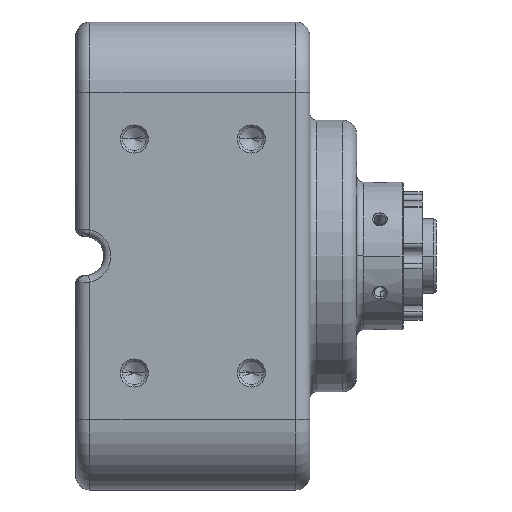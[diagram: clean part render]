
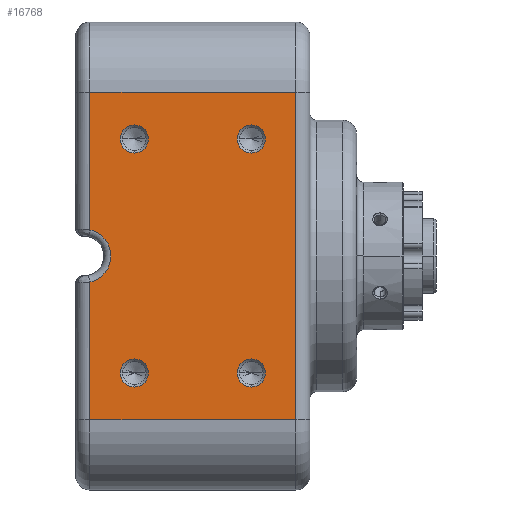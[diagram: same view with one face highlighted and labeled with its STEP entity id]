
A CAD part, front view. The second image highlights one B-rep face of the part: STEP entity #16768.
In plain terms, the highlighted planar face has unit normal (0, -1, 0).
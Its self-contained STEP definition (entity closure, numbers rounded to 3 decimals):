
#6643=CARTESIAN_POINT('',(37.5,-50.,-25.));
#6644=DIRECTION('',(0.,1.,0.));
#6645=DIRECTION('',(0.,0.,-1.));
#6646=AXIS2_PLACEMENT_3D('',#6643,#6644,#6645);
#6651=CARTESIAN_POINT('',(37.5,-50.,-25.));
#6652=DIRECTION('',(0.,1.,0.));
#6653=DIRECTION('',(0.,0.,1.));
#6654=AXIS2_PLACEMENT_3D('',#6651,#6652,#6653);
#6659=CARTESIAN_POINT('',(12.5,-50.,-25.));
#6660=DIRECTION('',(0.,1.,0.));
#6661=DIRECTION('',(0.,0.,-1.));
#6662=AXIS2_PLACEMENT_3D('',#6659,#6660,#6661);
#6667=CARTESIAN_POINT('',(12.5,-50.,-25.));
#6668=DIRECTION('',(0.,1.,0.));
#6669=DIRECTION('',(0.,0.,1.));
#6670=AXIS2_PLACEMENT_3D('',#6667,#6668,#6669);
#6675=CARTESIAN_POINT('',(37.5,-50.,25.));
#6676=DIRECTION('',(0.,1.,0.));
#6677=DIRECTION('',(0.,0.,-1.));
#6678=AXIS2_PLACEMENT_3D('',#6675,#6676,#6677);
#6683=CARTESIAN_POINT('',(37.5,-50.,25.));
#6684=DIRECTION('',(0.,1.,0.));
#6685=DIRECTION('',(0.,0.,1.));
#6686=AXIS2_PLACEMENT_3D('',#6683,#6684,#6685);
#6691=CARTESIAN_POINT('',(12.5,-50.,25.));
#6692=DIRECTION('',(0.,1.,0.));
#6693=DIRECTION('',(0.,0.,-1.));
#6694=AXIS2_PLACEMENT_3D('',#6691,#6692,#6693);
#6699=CARTESIAN_POINT('',(12.5,-50.,25.));
#6700=DIRECTION('',(0.,1.,0.));
#6701=DIRECTION('',(0.,0.,1.));
#6702=AXIS2_PLACEMENT_3D('',#6699,#6700,#6701);
#6707=CARTESIAN_POINT('',(1.75,-50.,0.));
#6708=DIRECTION('',(0.,1.,0.));
#6709=DIRECTION('',(0.217,0.,0.976));
#6710=AXIS2_PLACEMENT_3D('',#6707,#6708,#6709);
#6715=DIRECTION('',(-1.,0.,0.));
#6716=VECTOR('',#6715,44.);
#6717=CARTESIAN_POINT('',(47.,-50.,35.));
#6718=LINE('',#6717,#6716);
#6722=DIRECTION('',(0.,0.,-1.));
#6723=VECTOR('',#6722,70.);
#6724=CARTESIAN_POINT('',(47.,-50.,35.));
#6725=LINE('',#6724,#6723);
#6729=DIRECTION('',(-1.,0.,0.));
#6730=VECTOR('',#6729,44.);
#6731=CARTESIAN_POINT('',(47.,-50.,-35.));
#6732=LINE('',#6731,#6730);
#7187=DIRECTION('',(0.,0.,-1.));
#7188=VECTOR('',#7187,29.388);
#7189=CARTESIAN_POINT('',(3.,-50.,
-5.612));
#7190=LINE('',#7189,#7188);
#7210=DIRECTION('',(0.,0.,-1.));
#7211=VECTOR('',#7210,29.388);
#7212=CARTESIAN_POINT('',(3.,-50.,35.));
#7213=LINE('',#7212,#7211);
#9441=CARTESIAN_POINT('',(47.,-50.,35.));
#9442=VERTEX_POINT('',#9441);
#9445=CARTESIAN_POINT('',(47.,-50.,-35.));
#9446=VERTEX_POINT('',#9445);
#9452=CARTESIAN_POINT('',(3.,-50.,-35.));
#9454=VERTEX_POINT('',#9452);
#9459=CARTESIAN_POINT('',(3.,-50.,35.));
#9461=VERTEX_POINT('',#9459);
#9479=CARTESIAN_POINT('',(37.5,-50.,-28.));
#9480=CARTESIAN_POINT('',(37.5,-50.,-22.));
#9481=VERTEX_POINT('',#9479);
#9482=VERTEX_POINT('',#9480);
#9487=CARTESIAN_POINT('',(12.5,-50.,-28.));
#9488=CARTESIAN_POINT('',(12.5,-50.,-22.));
#9489=VERTEX_POINT('',#9487);
#9490=VERTEX_POINT('',#9488);
#9495=CARTESIAN_POINT('',(37.5,-50.,22.));
#9496=CARTESIAN_POINT('',(37.5,-50.,28.));
#9497=VERTEX_POINT('',#9495);
#9498=VERTEX_POINT('',#9496);
#9503=CARTESIAN_POINT('',(12.5,-50.,22.));
#9504=CARTESIAN_POINT('',(12.5,-50.,28.));
#9505=VERTEX_POINT('',#9503);
#9506=VERTEX_POINT('',#9504);
#10197=CARTESIAN_POINT('',(3.,-50.,5.612));
#10198=CARTESIAN_POINT('',(3.,-50.,-5.612));
#10199=VERTEX_POINT('',#10197);
#10200=VERTEX_POINT('',#10198);
#16728=CARTESIAN_POINT('',(0.,-50.,50.));
#16729=DIRECTION('',(0.,-1.,0.));
#16730=DIRECTION('',(0.,0.,-1.));
#16731=AXIS2_PLACEMENT_3D('',#16728,#16729,#16730);
#16732=PLANE('',#16731);
#16734=ORIENTED_EDGE('',*,*,#16733,.F.);
#16736=ORIENTED_EDGE('',*,*,#16735,.F.);
#16737=ORIENTED_EDGE('',*,*,#16721,.F.);
#16738=ORIENTED_EDGE('',*,*,#11255,.T.);
#16739=ORIENTED_EDGE('',*,*,#11284,.T.);
#16741=ORIENTED_EDGE('',*,*,#16740,.F.);
#16742=EDGE_LOOP('',(#16734,#16736,#16737,#16738,#16739,#16741));
#16743=FACE_OUTER_BOUND('',#16742,.F.);
#16745=ORIENTED_EDGE('',*,*,#16744,.F.);
#16747=ORIENTED_EDGE('',*,*,#16746,.F.);
#16748=EDGE_LOOP('',(#16745,#16747));
#16749=FACE_BOUND('',#16748,.F.);
#16751=ORIENTED_EDGE('',*,*,#16750,.F.);
#16753=ORIENTED_EDGE('',*,*,#16752,.F.);
#16754=EDGE_LOOP('',(#16751,#16753));
#16755=FACE_BOUND('',#16754,.F.);
#16757=ORIENTED_EDGE('',*,*,#16756,.F.);
#16759=ORIENTED_EDGE('',*,*,#16758,.F.);
#16760=EDGE_LOOP('',(#16757,#16759));
#16761=FACE_BOUND('',#16760,.F.);
#16763=ORIENTED_EDGE('',*,*,#16762,.F.);
#16765=ORIENTED_EDGE('',*,*,#16764,.F.);
#16766=EDGE_LOOP('',(#16763,#16765));
#16767=FACE_BOUND('',#16766,.F.);
#6647=CIRCLE('',#6646,3.);
#6655=CIRCLE('',#6654,3.);
#6663=CIRCLE('',#6662,3.);
#6671=CIRCLE('',#6670,3.);
#6679=CIRCLE('',#6678,3.);
#6687=CIRCLE('',#6686,3.);
#6695=CIRCLE('',#6694,3.);
#6703=CIRCLE('',#6702,3.);
#6711=CIRCLE('',#6710,5.75);
#11255=EDGE_CURVE('',#9442,#9446,#6725,.T.);
#11284=EDGE_CURVE('',#9446,#9454,#6732,.T.);
#16721=EDGE_CURVE('',#9442,#9461,#6718,.T.);
#16733=EDGE_CURVE('',#10199,#10200,#6711,.T.);
#16735=EDGE_CURVE('',#9461,#10199,#7213,.T.);
#16740=EDGE_CURVE('',#10200,#9454,#7190,.T.);
#16744=EDGE_CURVE('',#9489,#9490,#6663,.T.);
#16746=EDGE_CURVE('',#9490,#9489,#6671,.T.);
#16750=EDGE_CURVE('',#9497,#9498,#6679,.T.);
#16752=EDGE_CURVE('',#9498,#9497,#6687,.T.);
#16756=EDGE_CURVE('',#9505,#9506,#6695,.T.);
#16758=EDGE_CURVE('',#9506,#9505,#6703,.T.);
#16762=EDGE_CURVE('',#9481,#9482,#6647,.T.);
#16764=EDGE_CURVE('',#9482,#9481,#6655,.T.);
#16768=ADVANCED_FACE('',(#16743,#16749,#16755,#16761,#16767),#16732,.T.);
